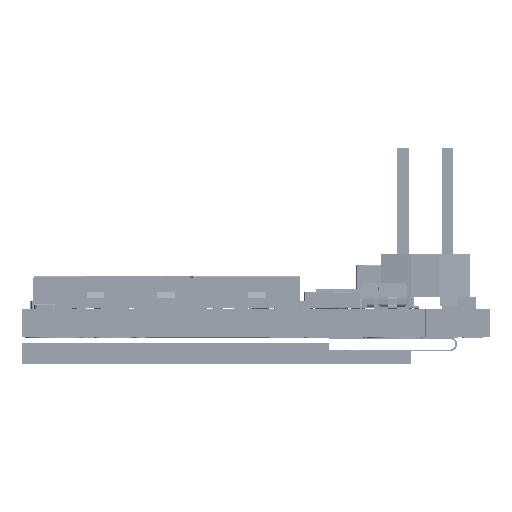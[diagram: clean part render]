
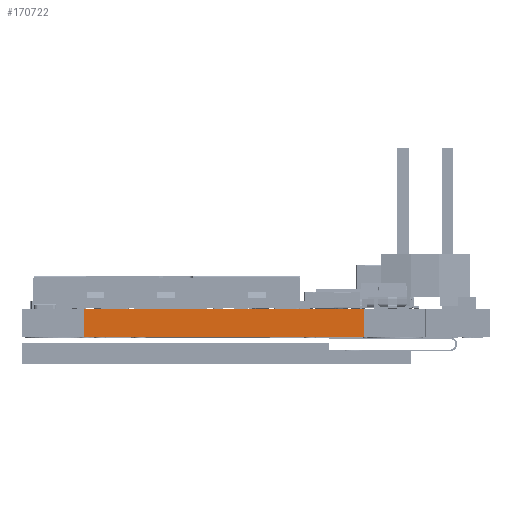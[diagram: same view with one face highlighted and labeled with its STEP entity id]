
A CAD part, left-side view. The second image highlights one B-rep face of the part: STEP entity #170722.
In plain terms, the highlighted planar face has unit normal (-1, 0, 0).
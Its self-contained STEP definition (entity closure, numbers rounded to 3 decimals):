
#54491 = CARTESIAN_POINT ( 'NONE',  ( 1.753, 17.729, 0. ) ) ;
#54529 = CARTESIAN_POINT ( 'NONE',  ( 1.753, 1.766, 0. ) ) ;
#68642 = EDGE_CURVE ( 'NONE', #152539, #167033, #174285, .T. ) ;
#68664 = EDGE_CURVE ( 'NONE', #152542, #167029, #174325, .T. ) ;
#92459 = AXIS2_PLACEMENT_3D ( 'NONE', #96324, #96344, #96345 ) ;
#96324 = CARTESIAN_POINT ( 'NONE',  ( 1.753, 17.729, -1.6 ) ) ;
#96325 = PLANE ( 'NONE',  #92459 ) ;
#96344 = DIRECTION ( 'NONE',  ( -1., 0., 0. ) ) ;
#96345 = DIRECTION ( 'NONE',  ( 0., 0., 1. ) ) ;
#114562 = FACE_OUTER_BOUND ( 'NONE', #146354, .T. ) ;
#139314 = ORIENTED_EDGE ( 'NONE', *, *, #157229, .F. ) ;
#139318 = ORIENTED_EDGE ( 'NONE', *, *, #68664, .F. ) ;
#139323 = ORIENTED_EDGE ( 'NONE', *, *, #280495, .T. ) ;
#139327 = ORIENTED_EDGE ( 'NONE', *, *, #68642, .T. ) ;
#146354 = EDGE_LOOP ( 'NONE', ( #139314, #139318, #139323, #139327 ) ) ;
#152539 = VERTEX_POINT ( 'NONE', #226194 ) ;
#152542 = VERTEX_POINT ( 'NONE', #226199 ) ;
#157229 = EDGE_CURVE ( 'NONE', #167029, #167033, #312182, .T. ) ;
#167029 = VERTEX_POINT ( 'NONE', #54491 ) ;
#167033 = VERTEX_POINT ( 'NONE', #54529 ) ;
#170722 = ADVANCED_FACE ( 'NONE', ( #114562 ), #96325, .T. ) ;
#174278 = VECTOR ( 'NONE', #240682, 1000. ) ;
#174285 = LINE ( 'NONE', #240665, #174278 ) ;
#174315 = VECTOR ( 'NONE', #240725, 1000. ) ;
#174325 = LINE ( 'NONE', #240708, #174315 ) ;
#226194 = CARTESIAN_POINT ( 'NONE',  ( 1.753, 1.766, -1.6 ) ) ;
#226199 = CARTESIAN_POINT ( 'NONE',  ( 1.753, 17.729, -1.6 ) ) ;
#240665 = CARTESIAN_POINT ( 'NONE',  ( 1.753, 1.766, -1.6 ) ) ;
#240682 = DIRECTION ( 'NONE',  ( 0., 0., 1. ) ) ;
#240708 = CARTESIAN_POINT ( 'NONE',  ( 1.753, 17.729, -1.6 ) ) ;
#240725 = DIRECTION ( 'NONE',  ( 0., 0., 1. ) ) ;
#253035 = CARTESIAN_POINT ( 'NONE',  ( 1.753, 17.729, 0. ) ) ;
#253038 = DIRECTION ( 'NONE',  ( 0., -1., 0. ) ) ;
#280495 = EDGE_CURVE ( 'NONE', #152542, #152539, #332677, .T. ) ;
#312182 = LINE ( 'NONE', #253035, #312184 ) ;
#312184 = VECTOR ( 'NONE', #253038, 1000. ) ;
#332677 = LINE ( 'NONE', #336922, #332680 ) ;
#332680 = VECTOR ( 'NONE', #336924, 1000. ) ;
#336922 = CARTESIAN_POINT ( 'NONE',  ( 1.753, 17.729, -1.6 ) ) ;
#336924 = DIRECTION ( 'NONE',  ( 0., -1., 0. ) ) ;
